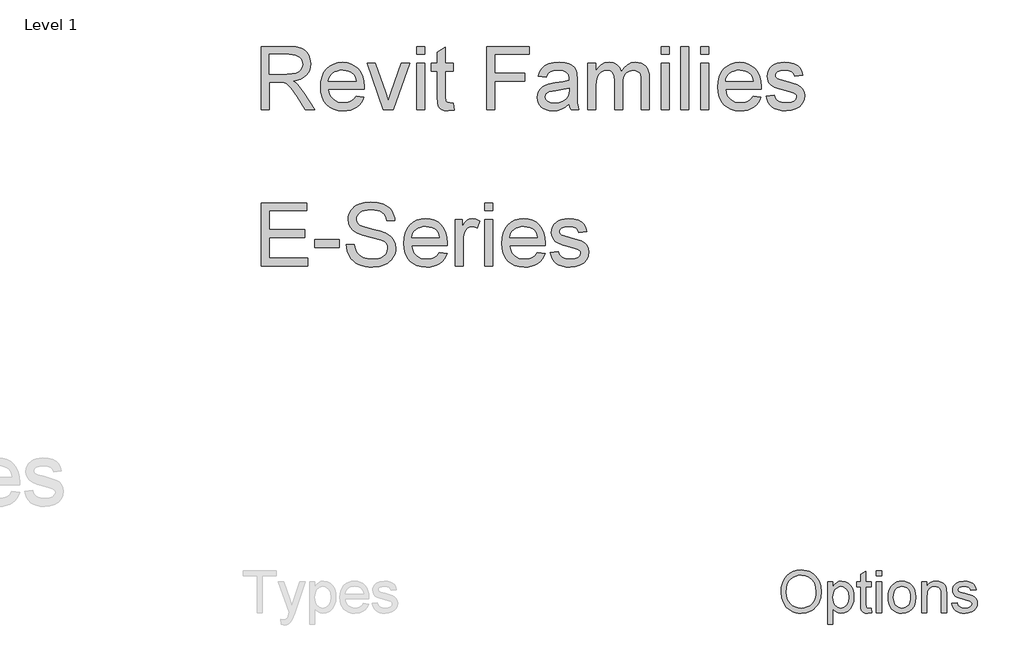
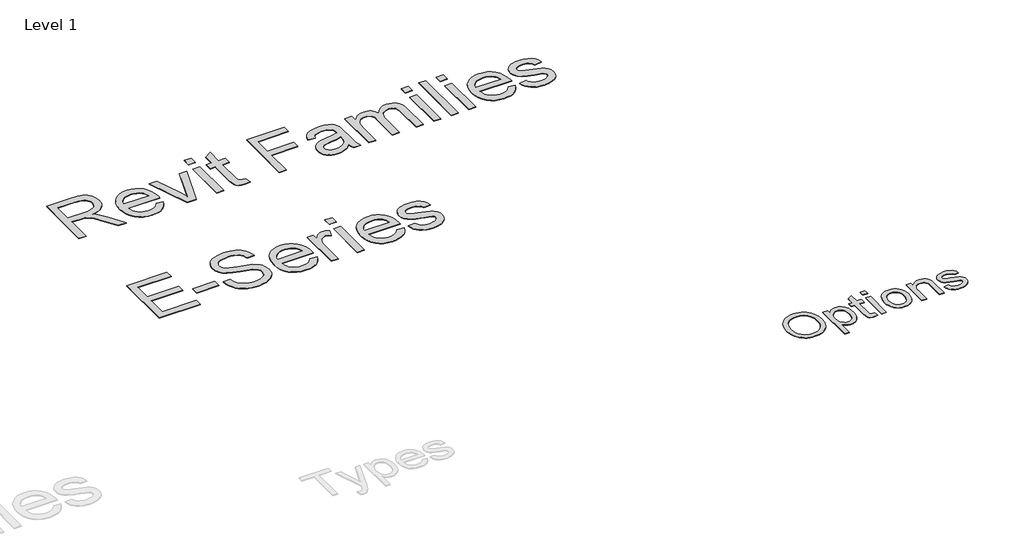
# One storey, part 6 of 6: 2 proxies.
"""IFC4 building model written with IfcOpenShell, lengths in millimetres."""

from ifc_helpers import new_model, si_unit, origin, origin_with_axes, place, context, project, spatial, polyline, outline, extrude, element, save

model = new_model("IFC4")

# Units and contexts
model_context = context("Model", 3, world=origin())
ifc_project = project(units=[si_unit("LENGTHUNIT", "METRE", prefix="MILLI")], contexts=[model_context])

# Site, building, storey
site = spatial("IfcSite", under=ifc_project)
building = spatial("IfcBuilding", under=site)
storey = spatial("IfcBuildingStorey", under=building, Name="Level 1", Elevation=0.0)

# Proxies
placement = place(None, origin())
element("IfcBuildingElementProxy", 1, Name="400mm Arial", ObjectType="400mm Arial", at=placement, inside=storey, context=model_context, shape_type="SweptSolid", body=[
    extrude(outline(polyline([(-6462.261333, 17542.0194987), (-6458.9974836, 17587.9704339), (-6449.2059353, 17628.6489968), (-6432.8866881, 17664.0551876), (-6410.0397421, 17694.1890063), (-6382.0340011, 17718.2494348), (-6350.238369, 17735.4354552), (-6314.6528458, 17745.7470674), (-6275.2774315, 17749.1842715), (-6248.9215484, 17747.57028), (-6223.892725, 17742.7283055), (-6200.1909613, 17734.6583482), (-6177.8162572, 17723.3604078), (-6157.3962762, 17709.1752161), (-6139.5586815, 17692.4435044), (-6124.3034732, 17673.1652729), (-6111.6306512, 17651.3405215), (-6101.671726, 17627.4654031), (-6094.558208, 17602.0360707), (-6088.8673936, 17546.5147639), (-6094.8570953, 17490.2522165), (-6102.3442224, 17464.4701971), (-6112.8262004, 17440.2543472), (-6126.0549528, 17418.2442857), (-6141.7824031, 17399.0796313), (-6160.0085513, 17382.7603841), (-6180.7333974, 17369.2865442), (-6226.4153339, 17351.2098396), (-6275.5643633, 17345.1842715), (-6302.3805328, 17346.8490738), (-6327.7381322, 17351.8434807), (-6351.6371616, 17360.1674923), (-6374.0776209, 17371.8211086), (-6394.473691, 17386.3530096), (-6412.2395527, 17403.3118756), (-6427.3752061, 17422.6977066), (-6439.8806512, 17444.5105025), (-6456.6661625, 17491.91403), (-6462.261333, 17542.0194987)]), holes=[polyline([(-6413.291636, 17541.541279), (-6410.843749, 17509.0761393), (-6403.5000877, 17480.2574249), (-6391.2606524, 17455.0851356), (-6374.1254429, 17433.5592715), (-6353.2959862, 17416.3194514), (-6329.9738093, 17404.0052942), (-6304.1589123, 17396.6167999), (-6275.8512951, 17394.1539684), (-6247.0594805, 17396.6407108), (-6220.9397184, 17404.1009381), (-6197.4920089, 17416.5346502), (-6176.7163519, 17433.9418472), (-6159.7066751, 17455.92202), (-6147.5569059, 17482.0746597), (-6140.2670444, 17512.3997662), (-6137.8370906, 17546.8973396), (-6141.9976019, 17590.2479552), (-6154.479136, 17627.7164684), (-6174.9588946, 17658.3583955), (-6203.1140792, 17681.2292525), (-6237.0796332, 17695.468244), (-6274.9904997, 17700.2145745), (-6302.3147776, 17697.9280866), (-6327.6663993, 17691.0686228), (-6351.0453647, 17679.6361831), (-6372.4516739, 17663.6307677), (-6390.3191573, 17642.2812471), (-6403.0816455, 17614.8164921), (-6410.7391384, 17581.2365027), (-6413.291636, 17541.541279)])]), origin_with_axes(), (0.0, 0.0, 1.0), 5.0),
    extrude(outline(polyline([(-6027.6552724, 17241.1236654), (-6027.6552724, 17639.0024533), (-5978.6855754, 17639.0024533), (-5978.6855754, 17590.9891957), (-5962.7130375, 17614.6730262), (-5944.8276209, 17631.590048), (-5923.9772421, 17641.740261), (-5899.1098179, 17645.1236654), (-5865.9931038, 17640.3892904), (-5837.0369012, 17626.1861654), (-5813.4606701, 17603.3750858), (-5796.4838709, 17572.8168472), (-5786.2260584, 17536.7351711), (-5782.8067875, 17497.353779), (-5786.6684116, 17455.4736891), (-5798.2532838, 17418.0171313), (-5817.1907838, 17386.885029), (-5843.1102913, 17363.9783055), (-5873.2979097, 17349.88278), (-5905.0397421, 17345.1842715), (-5927.5519343, 17348.328566), (-5947.6491171, 17357.7614495), (-5964.8530707, 17372.000441), (-5978.6855754, 17389.5630593), (-5978.6855754, 17241.1236654), (-6027.6552724, 17241.1236654)]), holes=[polyline([(-5978.6855754, 17492.8585139), (-5973.3892923, 17448.9579457), (-5966.7689384, 17431.9572355), (-5957.5004429, 17418.2562411), (-5934.0557222, 17400.1795366), (-5920.6386708, 17395.6603605), (-5906.0918254, 17394.1539684), (-5891.3357589, 17395.7141602), (-5877.6736199, 17400.3947355), (-5853.6311247, 17419.1170366), (-5844.0697196, 17433.3141839), (-5837.2401446, 17450.9425574), (-5831.7764845, 17496.4929836), (-5837.1086341, 17540.1544419), (-5843.7738212, 17557.2866625), (-5853.105083, 17571.2865442), (-5876.5139372, 17589.9371124), (-5889.778556, 17594.5997544), (-5904.0833027, 17596.1539684), (-5918.3432163, 17594.5011216), (-5931.7602677, 17589.5425811), (-5956.0657838, 17569.7084192), (-5965.9619426, 17554.9882191), (-5973.0306275, 17537.2731682), (-5977.2718384, 17516.5632665), (-5978.6855754, 17492.8585139)])]), origin_with_axes(), (0.0, 0.0, 1.0), 5.0),
    extrude(outline(polyline([(-5623.6552724, 17392.1454457), (-5617.5340603, 17349.8708245), (-5654.1656891, 17345.1842715), (-5677.6701872, 17347.2167052), (-5695.1969391, 17353.3140063), (-5707.5828292, 17362.7110233), (-5715.6647421, 17374.6426048), (-5720.1121853, 17395.1343188), (-5721.5946663, 17430.2117336), (-5721.5946663, 17590.0327563), (-5758.3219391, 17590.0327563), (-5758.3219391, 17639.0024533), (-5721.5946663, 17639.0024533), (-5721.5946663, 17708.918173), (-5672.6249694, 17737.7069987), (-5672.6249694, 17639.0024533), (-5623.6552724, 17639.0024533), (-5623.6552724, 17590.0327563), (-5672.6249694, 17590.0327563), (-5672.6249694, 17431.6463927), (-5670.042583, 17406.3963927), (-5661.6737383, 17397.4536843), (-5644.9838709, 17394.1539684), (-5623.6552724, 17392.1454457)])), origin_with_axes(), (0.0, 0.0, 1.0), 5.0),
    extrude(outline(polyline([(-5574.6855754, 17351.3054836), (-5574.6855754, 17639.0024533), (-5525.7158785, 17639.0024533), (-5525.7158785, 17351.3054836), (-5574.6855754, 17351.3054836)])), origin_with_axes(), (0.0, 0.0, 1.0), 5.0),
    extrude(outline(polyline([(-5574.6855754, 17694.0933624), (-5574.6855754, 17743.0630593), (-5525.7158785, 17743.0630593), (-5525.7158785, 17694.0933624), (-5574.6855754, 17694.0933624)])), origin_with_axes(), (0.0, 0.0, 1.0), 5.0),
    extrude(outline(polyline([(-5464.5037572, 17495.1539684), (-5461.8556157, 17532.4132606), (-5453.911191, 17564.5197355), (-5440.6704831, 17591.4733931), (-5422.1334921, 17613.2742336), (-5403.4709684, 17627.20836), (-5382.871655, 17637.1613074), (-5360.3355518, 17643.1330759), (-5335.8626588, 17645.1236654), (-5308.8462348, 17642.6996893), (-5284.4181749, 17635.427761), (-5262.5784791, 17623.3078806), (-5243.3271474, 17606.340048), (-5227.6146415, 17585.0981268), (-5216.391423, 17560.1559807), (-5209.6574919, 17531.5136098), (-5207.4128482, 17499.1710139), (-5211.3820716, 17449.6991862), (-5223.2897421, 17412.0393851), (-5242.7891502, 17383.8363785), (-5269.5335868, 17362.7349343), (-5301.2993302, 17349.5719372), (-5335.8626588, 17345.1842715), (-5363.273614, 17347.5992809), (-5387.9288283, 17354.8443093), (-5409.8283015, 17366.9193567), (-5428.9720338, 17383.824423), (-5444.5171628, 17405.2725764), (-5455.6208264, 17430.9768851), (-5462.2830245, 17460.9373491), (-5464.5037572, 17495.1539684)]), holes=[polyline([(-5415.5340603, 17495.2496124), (-5414.1173344, 17471.4970378), (-5409.8671569, 17450.9306019), (-5402.7835276, 17433.5503048), (-5392.8664466, 17419.3561465), (-5380.8033548, 17408.3301936), (-5367.2816929, 17400.4545129), (-5352.3014608, 17395.7291045), (-5335.8626588, 17394.1539684), (-5319.5075451, 17395.7380712), (-5304.5870906, 17400.4903794), (-5291.1012951, 17408.4108931), (-5279.0501588, 17419.4996124), (-5269.1330778, 17433.8342478), (-5262.0494485, 17451.4925101), (-5257.799271, 17472.4743993), (-5256.3825451, 17496.7799154), (-5257.8082376, 17519.7792939), (-5262.085315, 17539.8077326), (-5269.2137774, 17556.8652314), (-5279.1936247, 17570.9517904), (-5291.2895941, 17581.9777433), (-5304.766423, 17589.8534239), (-5319.6241112, 17594.5788323), (-5335.8626588, 17596.1539684), (-5352.3014608, 17594.58481), (-5367.2816929, 17589.8773349), (-5380.8033548, 17582.031543), (-5392.8664466, 17571.0474343), (-5402.7835276, 17556.8951202), (-5409.8671569, 17539.5447118), (-5414.1173344, 17518.9962092), (-5415.5340603, 17495.2496124)])]), origin_with_axes(), (0.0, 0.0, 1.0), 5.0),
    extrude(outline(polyline([(-5152.3219391, 17351.3054836), (-5152.3219391, 17639.0024533), (-5103.3522421, 17639.0024533), (-5103.3522421, 17598.8319987), (-5086.3395764, 17619.0846029), (-5065.9076398, 17633.5507487), (-5042.0564324, 17642.2304362), (-5014.7859542, 17645.1236654), (-4990.647815, 17642.7923444), (-4968.5421095, 17635.7983813), (-4950.1067402, 17625.0145271), (-4936.9796095, 17611.3135328), (-4928.0727677, 17594.7312648), (-4922.2982648, 17575.3035896), (-4919.7158785, 17527.9598396), (-4919.7158785, 17351.3054836), (-4968.6855754, 17351.3054836), (-4968.6855754, 17521.3604078), (-4970.0963235, 17546.6821408), (-4974.3285679, 17564.6871124), (-4982.1355044, 17577.5870887), (-4994.2703292, 17587.5938358), (-5009.8244249, 17594.0139353), (-5027.8891739, 17596.1539684), (-5056.5704002, 17591.3478605), (-5081.0193822, 17576.9295366), (-5090.7900084, 17565.1593543), (-5097.7690271, 17549.0732393), (-5101.9564384, 17528.6711914), (-5103.3522421, 17503.9532108), (-5103.3522421, 17351.3054836), (-5152.3219391, 17351.3054836)])), origin_with_axes(), (0.0, 0.0, 1.0), 5.0),
    extrude(outline(polyline([(-4870.7461815, 17437.0024533), (-4821.7764845, 17443.1236654), (-4814.0532364, 17422.1776427), (-4799.1088709, 17406.7789684), (-4776.847744, 17397.3102184), (-4747.1742118, 17394.1539684), (-4717.8593444, 17397.0471976), (-4697.2480754, 17405.7268851), (-4685.0534732, 17418.3040631), (-4680.9886057, 17432.8897639), (-4685.0773841, 17445.371298), (-4697.3437194, 17454.8878699), (-4747.7480754, 17468.8518851), (-4821.4895527, 17492.8106919), (-4840.1520764, 17504.8498728), (-4853.6737383, 17520.7865442), (-4861.8871616, 17539.6044893), (-4864.6249694, 17560.2874911), (-4862.4251588, 17579.2608576), (-4855.8257269, 17596.775654), (-4845.4244485, 17612.1384618), (-4831.8190982, 17624.6558624), (-4800.6869959, 17639.1459192), (-4758.5558406, 17645.1236654), (-4726.6824978, 17642.7206114), (-4698.9696663, 17635.5114495), (-4676.6846285, 17624.2015536), (-4661.0946663, 17609.496298), (-4650.7651209, 17590.3077326), (-4644.261333, 17565.5479078), (-4693.23103, 17559.4266957), (-4699.4120196, 17574.8373254), (-4711.6424883, 17586.4461086), (-4730.0419911, 17593.7270035), (-4754.730083, 17596.1539684), (-4782.8494012, 17593.8346029), (-4801.5956133, 17586.8765063), (-4812.1403576, 17576.8338927), (-4815.6552724, 17565.260976), (-4809.8209921, 17551.010029), (-4791.5529997, 17540.2022639), (-4749.3740224, 17529.7770745), (-4677.4976019, 17506.7268851), (-4658.51228, 17495.7039211), (-4644.1178671, 17480.6160896), (-4635.0436483, 17461.4155688), (-4632.0189088, 17438.0545366), (-4635.56969, 17413.9044419), (-4646.2220338, 17391.1890063), (-4663.5694533, 17371.6895982), (-4687.2054618, 17357.1875858), (-4715.7551777, 17348.1851), (-4747.8437194, 17345.1842715), (-4774.1996024, 17346.630886), (-4797.2199031, 17350.9707298), (-4816.9046214, 17358.2038027), (-4833.2537572, 17368.3301048), (-4846.6080423, 17381.3018141), (-4857.308208, 17397.0711086), (-4865.3542544, 17415.6379883), (-4870.7461815, 17437.0024533)])), origin_with_axes(), (0.0, 0.0, 1.0), 5.0),
])
element("IfcBuildingElementProxy", 2, Name="600mm Arial", ObjectType="600mm Arial", at=placement, inside=storey, context=model_context, shape_type="SweptSolid", body=[
    extrude(outline(polyline([(-11309.2935955, 22041.6162982), (-11309.2935955, 22632.385529), (-11054.7262878, 22632.385529), (-10986.3068167, 22628.401154), (-10936.5291724, 22616.448029), (-10917.3194369, 22606.9468271), (-10900.1469609, 22594.3807213), (-10885.0117446, 22578.7497117), (-10871.9137878, 22560.0537982), (-10861.3443768, 22539.2980891), (-10853.7947974, 22517.4876924), (-10847.755134, 22470.7028367), (-10850.2566364, 22440.3602886), (-10857.7611436, 22412.5057213), (-10870.2686556, 22387.1391347), (-10887.7791724, 22364.260529), (-10910.5180547, 22344.6000722), (-10938.7106628, 22328.8879328), (-10972.356997, 22317.1241107), (-11011.4570571, 22309.3086059), (-10987.1181148, 22293.4071636), (-10969.4859032, 22277.7220674), (-10909.630134, 22201.7124521), (-10811.1205186, 22041.6162982), (-10896.9378263, 22041.6162982), (-10973.8128263, 22164.0682213), (-11029.3416724, 22245.1259136), (-11049.9847013, 22268.7617309), (-11068.3560955, 22283.4191828), (-11103.4762878, 22297.4816828), (-11146.3128263, 22300.0778367), (-11235.4474417, 22300.0778367), (-11235.4474417, 22041.6162982), (-11309.2935955, 22041.6162982)]), holes=[polyline([(-11235.4474417, 22373.9239905), (-11070.1589801, 22373.9239905), (-11022.6890282, 22376.5381732), (-10985.8560955, 22384.3807213), (-10958.1277301, 22397.9744713), (-10937.9714801, 22417.8422597), (-10925.6938359, 22441.8747117), (-10921.6012878, 22467.9624521), (-10923.5529104, 22486.8476684), (-10929.4077782, 22503.9840867), (-10939.1658912, 22519.3717069), (-10952.8272494, 22533.010529), (-10970.7073575, 22544.1793992), (-10993.1217205, 22552.1571636), (-11020.0703383, 22556.9438222), (-11051.5532109, 22558.5393751), (-11235.4474417, 22558.5393751), (-11235.4474417, 22373.9239905)])]), origin_with_axes(), (0.0, 0.0, 1.0), 5.0),
    extrude(outline(polyline([(-10424.005134, 22170.8470674), (-10351.6012878, 22161.6162982), (-10362.7025498, 22132.6168992), (-10377.6890282, 22107.0610097), (-10396.5607229, 22084.9486299), (-10419.317634, 22066.2797597), (-10445.7253864, 22051.4510338), (-10475.5496051, 22040.8590867), (-10508.7902902, 22034.5039184), (-10545.4474417, 22032.385529), (-10591.2677542, 22036.0408775), (-10632.0940763, 22047.0069232), (-10667.926408, 22065.283666), (-10698.7647494, 22090.8711059), (-10723.5634273, 22123.0571035), (-10741.2767686, 22161.1295194), (-10751.9047734, 22205.0883535), (-10755.4474417, 22254.9336059), (-10751.8687157, 22306.4690626), (-10741.1325378, 22351.8927405), (-10723.238908, 22391.2046396), (-10698.1878263, 22424.4047597), (-10667.4306148, 22450.7809617), (-10632.4185955, 22469.6211059), (-10593.1517686, 22480.9251924), (-10549.630134, 22484.6932213), (-10507.5102422, 22480.9342069), (-10469.4197974, 22469.6571636), (-10435.3587998, 22450.8620915), (-10405.3272494, 22424.5489905), (-10380.8125258, 22391.4209857), (-10363.302009, 22352.1812021), (-10352.7956989, 22306.8296396), (-10349.2935955, 22255.3662982), (-10349.7262878, 22235.4624521), (-10681.6012878, 22235.4624521), (-10677.3239441, 22205.994303), (-10668.8188359, 22180.1860097), (-10656.0859633, 22158.0375722), (-10639.1253263, 22139.5489905), (-10618.8744248, 22124.9726684), (-10596.270759, 22114.5610097), (-10571.3143287, 22108.3140146), (-10544.005134, 22106.2316828), (-10504.7022494, 22110.0898559), (-10471.6012878, 22121.6643751), (-10444.7022494, 22141.6763944), (-10424.005134, 22170.8470674)]), holes=[polyline([(-10681.6012878, 22309.3086059), (-10423.1397494, 22309.3086059), (-10433.1277301, 22348.323029), (-10441.7184753, 22363.6655771), (-10452.7070571, 22376.2316828), (-10472.8452782, 22391.3759136), (-10495.7599417, 22402.1932213), (-10521.4510474, 22408.6836059), (-10549.9185955, 22410.8470674), (-10575.8846412, 22409.1208054), (-10599.6962398, 22403.9420194), (-10621.3533912, 22395.3107093), (-10640.8560955, 22383.2268751), (-10657.2217806, 22368.2494112), (-10669.4678744, 22350.9372117), (-10677.5943768, 22331.2902766), (-10681.6012878, 22309.3086059)])]), origin_with_axes(), (0.0, 0.0, 1.0), 5.0),
    extrude(outline(polyline([(-10169.005134, 22041.6162982), (-10321.6012878, 22475.4624521), (-10243.4282109, 22475.4624521), (-10150.9762878, 22215.5586059), (-10123.1397494, 22128.1547597), (-10095.880134, 22210.6547597), (-10002.8512878, 22475.4624521), (-9924.6782109, 22475.4624521), (-10075.3993648, 22041.6162982), (-10169.005134, 22041.6162982)])), origin_with_axes(), (0.0, 0.0, 1.0), 5.0),
    extrude(outline(polyline([(-9860.0628263, 22041.6162982), (-9860.0628263, 22475.4624521), (-9786.2166724, 22475.4624521), (-9786.2166724, 22041.6162982), (-9860.0628263, 22041.6162982)])), origin_with_axes(), (0.0, 0.0, 1.0), 5.0),
    extrude(outline(polyline([(-9860.0628263, 22558.5393751), (-9860.0628263, 22632.385529), (-9786.2166724, 22632.385529), (-9786.2166724, 22558.5393751), (-9860.0628263, 22558.5393751)])), origin_with_axes(), (0.0, 0.0, 1.0), 5.0),
    extrude(outline(polyline([(-9518.5243648, 22103.2028367), (-9509.2935955, 22039.4528367), (-9564.5339801, 22032.385529), (-9599.9786917, 22035.4504328), (-9626.4089801, 22044.6451444), (-9645.0868648, 22058.8158174), (-9657.2743648, 22076.8086059), (-9663.9810955, 22107.7100482), (-9666.2166724, 22160.6066828), (-9666.2166724, 22401.6162982), (-9721.6012878, 22401.6162982), (-9721.6012878, 22475.4624521), (-9666.2166724, 22475.4624521), (-9666.2166724, 22580.8951444), (-9592.3705186, 22624.3086059), (-9592.3705186, 22475.4624521), (-9518.5243648, 22475.4624521), (-9518.5243648, 22401.6162982), (-9592.3705186, 22401.6162982), (-9592.3705186, 22162.7701444), (-9588.4762878, 22124.6932213), (-9575.8560955, 22111.2076444), (-9565.2010474, 22107.4756732), (-9550.6878263, 22106.2316828), (-9518.5243648, 22103.2028367)])), origin_with_axes(), (0.0, 0.0, 1.0), 5.0),
    extrude(outline(polyline([(-9204.6782109, 22041.6162982), (-9204.6782109, 22632.385529), (-8807.755134, 22632.385529), (-8807.755134, 22558.5393751), (-9130.8320571, 22558.5393751), (-9130.8320571, 22383.1547597), (-8853.9089801, 22383.1547597), (-8853.9089801, 22309.3086059), (-9130.8320571, 22309.3086059), (-9130.8320571, 22041.6162982), (-9204.6782109, 22041.6162982)])), origin_with_axes(), (0.0, 0.0, 1.0), 5.0),
    extrude(outline(polyline([(-8438.5243648, 22097.0009136), (-8473.8068167, 22066.7485097), (-8510.1349417, 22046.9528367), (-8548.3380667, 22036.0273559), (-8589.2455186, 22032.385529), (-8622.1256268, 22034.5760338), (-8650.958259, 22041.1475482), (-8675.7434152, 22052.1000722), (-8696.4810955, 22067.4336059), (-8712.855795, 22086.1745915), (-8724.552009, 22107.3494713), (-8731.5697373, 22130.9582453), (-8733.9089801, 22157.0009136), (-8730.3753263, 22187.6138944), (-8719.7743648, 22215.4143751), (-8703.4222013, 22239.2124521), (-8682.6349417, 22257.8182213), (-8658.2058551, 22271.8807213), (-8630.9282109, 22282.0489905), (-8567.0339801, 22293.1547597), (-8491.5291724, 22304.8374521), (-8438.9570571, 22318.5393751), (-8438.5243648, 22334.9816828), (-8443.6084994, 22367.9384136), (-8449.9636676, 22380.1439424), (-8458.8609032, 22389.5009136), (-8474.239509, 22398.8398559), (-8492.9714801, 22405.510529), (-8540.4955186, 22410.8470674), (-8584.4859032, 22407.2953847), (-8615.2070571, 22396.6403367), (-8636.1565763, 22376.9348078), (-8650.8320571, 22346.2316828), (-8724.6782109, 22355.4624521), (-8711.8597013, 22395.8470674), (-8692.7310955, 22427.5778367), (-8665.5075378, 22451.8446636), (-8628.4041724, 22469.8374521), (-8583.0255667, 22480.979279), (-8530.9762878, 22484.6932213), (-8481.0544128, 22481.4119713), (-8441.4810955, 22471.5682213), (-8411.6433551, 22456.7665386), (-8390.9282109, 22438.6114905), (-8377.1902301, 22416.1655771), (-8368.2839801, 22388.4912982), (-8364.6782109, 22323.8759136), (-8364.6782109, 22232.0009136), (-8360.9282109, 22103.7076444), (-8355.3753263, 22071.994904), (-8346.2166724, 22041.6162982), (-8420.0628263, 22041.6162982), (-8431.8897494, 22067.2893751), (-8438.5243648, 22097.0009136)]), holes=[polyline([(-8438.5243648, 22244.6932213), (-8488.1397494, 22232.3975482), (-8557.6589801, 22222.0489905), (-8621.192634, 22210.0778367), (-8637.7250859, 22201.8927405), (-8649.9666724, 22190.6066828), (-8657.5387878, 22177.0850482), (-8660.0628263, 22162.1932213), (-8654.5640282, 22140.2340867), (-8638.067634, 22122.2412982), (-8610.9342205, 22110.2340867), (-8573.5243648, 22106.2316828), (-8533.8609032, 22110.6487501), (-8498.8128263, 22123.8999521), (-8470.3993648, 22143.4251924), (-8450.6397494, 22166.6643751), (-8441.8777301, 22190.6066828), (-8438.9570571, 22223.7797597), (-8438.5243648, 22244.6932213)])]), origin_with_axes(), (0.0, 0.0, 1.0), 5.0),
    extrude(outline(polyline([(-8263.1397494, 22041.6162982), (-8263.1397494, 22475.4624521), (-8189.2935955, 22475.4624521), (-8189.2935955, 22404.0682213), (-8167.0820571, 22436.8626924), (-8138.5243648, 22462.5537982), (-8104.5940763, 22479.1583655), (-8066.2647494, 22484.6932213), (-8025.1950378, 22479.0501924), (-8007.7160715, 22471.9964064), (-7992.2743648, 22462.1211059), (-7967.6830186, 22435.0237501), (-7951.6012878, 22398.8759136), (-7924.6842205, 22436.4209857), (-7893.9810955, 22463.2388944), (-7859.4919128, 22479.3296396), (-7821.2166724, 22484.6932213), (-7791.653872, 22482.4621516), (-7765.7058551, 22475.7689424), (-7743.372622, 22464.6135939), (-7724.6541724, 22448.9961059), (-7709.856997, 22428.73619), (-7699.2875859, 22403.6535578), (-7692.9459393, 22373.7482093), (-7690.8320571, 22339.0201444), (-7690.8320571, 22041.6162982), (-7764.6782109, 22041.6162982), (-7764.6782109, 22307.2893751), (-7766.3909513, 22344.1223078), (-7771.5291724, 22368.948029), (-7781.1565763, 22385.9492309), (-7796.3368648, 22399.3086059), (-7815.8621051, 22407.9624521), (-7838.5243648, 22410.8470674), (-7859.4513479, 22408.9991107), (-7878.5303744, 22403.4552405), (-7895.7614441, 22394.2154569), (-7911.1445571, 22381.2797597), (-7923.7962998, 22364.2695434), (-7932.833259, 22342.8062021), (-7938.2554345, 22316.8897357), (-7940.0628263, 22286.5201444), (-7940.0628263, 22041.6162982), (-8013.9089801, 22041.6162982), (-8013.9089801, 22315.510529), (-8018.1818167, 22357.2653367), (-8031.0003263, 22387.0489905), (-8040.9116845, 22397.4606492), (-8053.5544128, 22404.8975482), (-8068.9285114, 22409.3596876), (-8087.0339801, 22410.8470674), (-8115.4834994, 22406.8807213), (-8141.6974417, 22394.9816828), (-8163.3320571, 22375.4384136), (-8178.0435955, 22348.5393751), (-8186.4810955, 22311.2196636), (-8189.2935955, 22260.4143751), (-8189.2935955, 22041.6162982), (-8263.1397494, 22041.6162982)])), origin_with_axes(), (0.0, 0.0, 1.0), 5.0),
    extrude(outline(polyline([(-7580.0628263, 22041.6162982), (-7580.0628263, 22475.4624521), (-7506.2166724, 22475.4624521), (-7506.2166724, 22041.6162982), (-7580.0628263, 22041.6162982)])), origin_with_axes(), (0.0, 0.0, 1.0), 5.0),
    extrude(outline(polyline([(-7580.0628263, 22558.5393751), (-7580.0628263, 22632.385529), (-7506.2166724, 22632.385529), (-7506.2166724, 22558.5393751), (-7580.0628263, 22558.5393751)])), origin_with_axes(), (0.0, 0.0, 1.0), 5.0),
    extrude(outline(polyline([(-7395.4474417, 22041.6162982), (-7395.4474417, 22632.385529), (-7321.6012878, 22632.385529), (-7321.6012878, 22041.6162982), (-7395.4474417, 22041.6162982)])), origin_with_axes(), (0.0, 0.0, 1.0), 5.0),
    extrude(outline(polyline([(-7210.8320571, 22041.6162982), (-7210.8320571, 22475.4624521), (-7136.9859032, 22475.4624521), (-7136.9859032, 22041.6162982), (-7210.8320571, 22041.6162982)])), origin_with_axes(), (0.0, 0.0, 1.0), 5.0),
    extrude(outline(polyline([(-7210.8320571, 22558.5393751), (-7210.8320571, 22632.385529), (-7136.9859032, 22632.385529), (-7136.9859032, 22558.5393751), (-7210.8320571, 22558.5393751)])), origin_with_axes(), (0.0, 0.0, 1.0), 5.0),
    extrude(outline(polyline([(-6722.4666724, 22170.8470674), (-6650.0628263, 22161.6162982), (-6661.1640883, 22132.6168992), (-6676.1505667, 22107.0610097), (-6695.0222614, 22084.9486299), (-6717.7791724, 22066.2797597), (-6744.1869248, 22051.4510338), (-6774.0111436, 22040.8590867), (-6807.2518287, 22034.5039184), (-6843.9089801, 22032.385529), (-6889.7292926, 22036.0408775), (-6930.5556148, 22047.0069232), (-6966.3879465, 22065.283666), (-6997.2262878, 22090.8711059), (-7022.0249657, 22123.0571035), (-7039.7383071, 22161.1295194), (-7050.3663119, 22205.0883535), (-7053.9089801, 22254.9336059), (-7050.3302542, 22306.4690626), (-7039.5940763, 22351.8927405), (-7021.7004465, 22391.2046396), (-6996.6493648, 22424.4047597), (-6965.8921532, 22450.7809617), (-6930.880134, 22469.6211059), (-6891.6133071, 22480.9251924), (-6848.0916724, 22484.6932213), (-6805.9717806, 22480.9342069), (-6767.8813359, 22469.6571636), (-6733.8203383, 22450.8620915), (-6703.7887878, 22424.5489905), (-6679.2740643, 22391.4209857), (-6661.7635474, 22352.1812021), (-6651.2572373, 22306.8296396), (-6647.755134, 22255.3662982), (-6648.1878263, 22235.4624521), (-6980.0628263, 22235.4624521), (-6975.7854825, 22205.994303), (-6967.2803744, 22180.1860097), (-6954.5475018, 22158.0375722), (-6937.5868648, 22139.5489905), (-6917.3359633, 22124.9726684), (-6894.7322974, 22114.5610097), (-6869.7758672, 22108.3140146), (-6842.4666724, 22106.2316828), (-6803.1637878, 22110.0898559), (-6770.0628263, 22121.6643751), (-6743.1637878, 22141.6763944), (-6722.4666724, 22170.8470674)]), holes=[polyline([(-6980.0628263, 22309.3086059), (-6721.6012878, 22309.3086059), (-6731.5892686, 22348.323029), (-6740.1800138, 22363.6655771), (-6751.1685955, 22376.2316828), (-6771.3068167, 22391.3759136), (-6794.2214801, 22402.1932213), (-6819.9125859, 22408.6836059), (-6848.380134, 22410.8470674), (-6874.3461797, 22409.1208054), (-6898.1577782, 22403.9420194), (-6919.8149297, 22395.3107093), (-6939.317634, 22383.2268751), (-6955.6833191, 22368.2494112), (-6967.9294128, 22350.9372117), (-6976.0559152, 22331.2902766), (-6980.0628263, 22309.3086059)])]), origin_with_axes(), (0.0, 0.0, 1.0), 5.0),
    extrude(outline(polyline([(-6601.6012878, 22170.8470674), (-6527.755134, 22180.0778367), (-6523.2929946, 22163.2388944), (-6516.1084994, 22148.4912982), (-6506.2016484, 22135.8350482), (-6493.5724417, 22125.2701444), (-6478.1848215, 22116.9408174), (-6460.0027301, 22110.9912982), (-6415.255134, 22106.2316828), (-6371.0484032, 22110.5946636), (-6353.8669128, 22116.0483896), (-6339.9666724, 22123.6836059), (-6321.5772494, 22142.6499521), (-6315.4474417, 22164.6451444), (-6316.988908, 22174.6150963), (-6321.6133071, 22183.4672597), (-6340.1109032, 22197.8182213), (-6367.7671532, 22207.1932213), (-6416.1205186, 22218.8759136), (-6483.5123455, 22238.3650963), (-6527.3224417, 22255.0057213), (-6555.4654705, 22273.1607694), (-6575.8560955, 22297.1932213), (-6588.2419128, 22325.5706251), (-6592.3705186, 22356.760529), (-6589.0532109, 22385.3723078), (-6579.1012878, 22411.7845674), (-6563.4161917, 22434.9516347), (-6542.8993648, 22453.8278367), (-6522.5087398, 22465.7088463), (-6495.9522494, 22475.6787982), (-6465.2491244, 22482.4396155), (-6432.4185955, 22484.6932213), (-6384.3536917, 22481.0694232), (-6342.5628263, 22470.198029), (-6308.9570571, 22453.1427405), (-6285.4474417, 22430.9672597), (-6269.8705186, 22402.0309617), (-6260.0628263, 22364.6932213), (-6333.9089801, 22355.4624521), (-6343.2298936, 22378.7016347), (-6361.6734032, 22396.2076444), (-6389.4197974, 22407.1872117), (-6426.6493648, 22410.8470674), (-6469.0532109, 22407.3494713), (-6497.3224417, 22396.8566828), (-6513.223884, 22381.7124521), (-6518.5243648, 22364.260529), (-6516.3248455, 22352.9023559), (-6509.7262878, 22342.7701444), (-6498.4402301, 22333.7196636), (-6482.1782109, 22326.4720674), (-6418.5724417, 22310.7509136), (-6310.1830186, 22275.9912982), (-6281.5532109, 22259.3687021), (-6259.8464801, 22236.6162982), (-6246.1625859, 22207.6619713), (-6241.6012878, 22172.4336059), (-6246.9558551, 22136.0153367), (-6263.0195571, 22101.760529), (-6289.1794128, 22072.3554809), (-6324.8224417, 22050.4864905), (-6367.8753263, 22036.9107694), (-6416.2647494, 22032.385529), (-6456.0093407, 22034.5670194), (-6490.723884, 22041.1114905), (-6520.4083792, 22052.0189424), (-6545.0628263, 22067.2893751), (-6565.2010474, 22086.8506732), (-6581.3368648, 22110.6307213), (-6593.4702782, 22138.6295194), (-6601.6012878, 22170.8470674)])), origin_with_axes(), (0.0, 0.0, 1.0), 5.0),
    extrude(outline(polyline([(-11309.2935955, 20583.1547597), (-11309.2935955, 21173.9239905), (-10884.6782109, 21173.9239905), (-10884.6782109, 21100.0778367), (-11235.4474417, 21100.0778367), (-11235.4474417, 20924.6932213), (-10903.1397494, 20924.6932213), (-10903.1397494, 20850.8470674), (-11235.4474417, 20850.8470674), (-11235.4474417, 20657.0009136), (-10875.4474417, 20657.0009136), (-10875.4474417, 20583.1547597), (-11309.2935955, 20583.1547597)])), origin_with_axes(), (0.0, 0.0, 1.0), 5.0),
    extrude(outline(polyline([(-10810.8320571, 20758.5393751), (-10810.8320571, 20832.385529), (-10580.0628263, 20832.385529), (-10580.0628263, 20758.5393751), (-10810.8320571, 20758.5393751)])), origin_with_axes(), (0.0, 0.0, 1.0), 5.0),
    extrude(outline(polyline([(-10515.4474417, 20786.2316828), (-10441.6012878, 20786.2316828), (-10433.1277301, 20745.2521155), (-10417.8032109, 20712.3134136), (-10393.8969609, 20686.1715867), (-10359.6782109, 20665.5826444), (-10317.8512878, 20652.2232694), (-10271.1205186, 20647.7701444), (-10229.9786917, 20651.1415386), (-10193.9570571, 20661.2557213), (-10164.7683551, 20677.2653367), (-10144.1253263, 20698.323029), (-10131.8476821, 20722.4997117), (-10127.755134, 20747.8662982), (-10130.8200378, 20772.5838463), (-10140.0147494, 20793.948029), (-10158.692634, 20812.1751924), (-10190.2070571, 20827.4816828), (-10297.7310955, 20855.6787982), (-10368.3140282, 20874.338654), (-10413.4762878, 20892.0970674), (-10450.2371051, 20916.9408174), (-10476.2887878, 20947.0489905), (-10491.8116244, 20981.7725482), (-10496.9859032, 21020.4624521), (-10495.3858431, 21042.4531372), (-10490.5856628, 21063.713654), (-10482.5853623, 21084.2440025), (-10471.3849417, 21104.0441828), (-10457.1106027, 21122.307404), (-10439.8885474, 21138.2268751), (-10419.7187758, 21151.8025963), (-10396.6012878, 21163.0345674), (-10344.6421532, 21178.1247117), (-10287.130134, 21183.1547597), (-10224.8224417, 21177.8903367), (-10170.3032109, 21162.0970674), (-10146.4510474, 21150.3332453), (-10125.5195571, 21136.0994713), (-10107.5087398, 21119.3957453), (-10092.4185955, 21100.2220674), (-10080.3663119, 21079.1373319), (-10071.4690763, 21056.7004328), (-10065.7268888, 21032.9113703), (-10063.1397494, 21007.7701444), (-10136.9859032, 21007.7701444), (-10141.9258071, 21031.3338463), (-10150.5435955, 21051.8326444), (-10162.8392686, 21069.2665386), (-10178.8128263, 21083.635529), (-10198.7617446, 21094.8675001), (-10222.9834994, 21102.8903367), (-10251.4780907, 21107.7040386), (-10284.2455186, 21109.3086059), (-10318.0586196, 21107.7220674), (-10346.9498455, 21102.9624521), (-10370.9191965, 21095.0297597), (-10389.9666724, 21083.9239905), (-10404.4798936, 21070.5736299), (-10414.8464801, 21055.9071636), (-10421.0664321, 21039.9245915), (-10423.1397494, 21022.6259136), (-10417.2623455, 20994.2485097), (-10399.630134, 20971.4239905), (-10383.4402301, 20961.2737501), (-10357.9474417, 20951.0153367), (-10279.0532109, 20930.1739905), (-10197.6349417, 20910.3783174), (-10148.380134, 20893.1066828), (-10106.2827782, 20866.3158174), (-10090.0072373, 20850.5676203), (-10076.9137878, 20833.2509136), (-10066.8491845, 20814.4558415), (-10059.6601821, 20794.2725482), (-10053.9089801, 20749.7412982), (-10055.5631268, 20726.6418391), (-10060.5255667, 20704.2184617), (-10068.7962998, 20682.471166), (-10080.3753263, 20661.3999521), (-10095.0598215, 20641.8206251), (-10112.6469609, 20624.5489905), (-10133.1367446, 20609.5850482), (-10156.5291724, 20596.9287982), (-10182.1436556, 20586.8641948), (-10209.2996051, 20579.6751924), (-10268.2359032, 20573.9239905), (-10306.0108431, 20575.4744713), (-10340.5856628, 20580.1259136), (-10371.9603623, 20587.8783174), (-10400.1349417, 20598.7316828), (-10425.2806748, 20612.7040386), (-10447.5688359, 20629.8134136), (-10466.9994248, 20650.0598078), (-10483.5724417, 20673.4432213), (-10496.9228023, 20699.2064424), (-10506.6854224, 20726.5922597), (-10512.8603023, 20755.6006732), (-10515.4474417, 20786.2316828)])), origin_with_axes(), (0.0, 0.0, 1.0), 5.0),
    extrude(outline(polyline([(-9648.6205186, 20712.385529), (-9576.2166724, 20703.1547597), (-9587.3179345, 20674.1553607), (-9602.3044128, 20648.5994713), (-9621.1761075, 20626.4870915), (-9643.9330186, 20607.8182213), (-9670.340771, 20592.9894953), (-9700.1649898, 20582.3975482), (-9733.4056748, 20576.0423799), (-9770.0628263, 20573.9239905), (-9815.8831388, 20577.5793391), (-9856.7094609, 20588.5453847), (-9892.5417926, 20606.8221275), (-9923.380134, 20632.4095674), (-9948.1788119, 20664.595565), (-9965.8921532, 20702.6679809), (-9976.520158, 20746.626815), (-9980.0628263, 20796.4720674), (-9976.4841003, 20848.0075242), (-9965.7479224, 20893.4312021), (-9947.8542926, 20932.7431011), (-9922.8032109, 20965.9432213), (-9892.0459994, 20992.3194232), (-9857.0339801, 21011.1595674), (-9817.7671532, 21022.463654), (-9774.2455186, 21026.2316828), (-9732.1256268, 21022.4726684), (-9694.0351821, 21011.1956251), (-9659.9741845, 20992.400553), (-9629.942634, 20966.0874521), (-9605.4279104, 20932.9594472), (-9587.9173936, 20893.7196636), (-9577.4110835, 20848.3681011), (-9573.9089801, 20796.9047597), (-9574.3416724, 20777.0009136), (-9906.2166724, 20777.0009136), (-9901.9393287, 20747.5327646), (-9893.4342205, 20721.7244713), (-9880.7013479, 20699.5760338), (-9863.7407109, 20681.0874521), (-9843.4898095, 20666.5111299), (-9820.8861436, 20656.0994713), (-9795.9297133, 20649.8524761), (-9768.6205186, 20647.7701444), (-9729.317634, 20651.6283174), (-9696.2166724, 20663.2028367), (-9669.317634, 20683.2148559), (-9648.6205186, 20712.385529)]), holes=[polyline([(-9906.2166724, 20850.8470674), (-9647.755134, 20850.8470674), (-9657.7431148, 20889.8614905), (-9666.3338599, 20905.2040386), (-9677.3224417, 20917.7701444), (-9697.4606628, 20932.9143751), (-9720.3753263, 20943.7316828), (-9746.0664321, 20950.2220674), (-9774.5339801, 20952.385529), (-9800.5000258, 20950.659267), (-9824.3116244, 20945.4804809), (-9845.9687758, 20936.8491708), (-9865.4714801, 20924.7653367), (-9881.8371652, 20909.7878727), (-9894.083259, 20892.4756732), (-9902.2097614, 20872.8287381), (-9906.2166724, 20850.8470674)])]), origin_with_axes(), (0.0, 0.0, 1.0), 5.0),
    extrude(outline(polyline([(-9500.0628263, 20583.1547597), (-9500.0628263, 21017.0009136), (-9435.4474417, 21017.0009136), (-9435.4474417, 20952.8182213), (-9411.5772494, 20990.0297597), (-9389.5820571, 21011.9528367), (-9367.5147494, 21022.6619713), (-9343.4282109, 21026.2316828), (-9306.6493648, 21020.5345674), (-9269.2935955, 21003.4432213), (-9293.9570571, 20937.2412982), (-9319.9185955, 20948.5994713), (-9345.880134, 20952.385529), (-9367.9294128, 20948.7437021), (-9387.6349417, 20937.8182213), (-9403.5544128, 20920.4384136), (-9414.2455186, 20897.4336059), (-9423.223884, 20856.1836059), (-9426.2166724, 20811.1836059), (-9426.2166724, 20583.1547597), (-9500.0628263, 20583.1547597)])), origin_with_axes(), (0.0, 0.0, 1.0), 5.0),
    extrude(outline(polyline([(-9223.1397494, 20583.1547597), (-9223.1397494, 21017.0009136), (-9149.2935955, 21017.0009136), (-9149.2935955, 20583.1547597), (-9223.1397494, 20583.1547597)])), origin_with_axes(), (0.0, 0.0, 1.0), 5.0),
    extrude(outline(polyline([(-9223.1397494, 21100.0778367), (-9223.1397494, 21173.9239905), (-9149.2935955, 21173.9239905), (-9149.2935955, 21100.0778367), (-9223.1397494, 21100.0778367)])), origin_with_axes(), (0.0, 0.0, 1.0), 5.0),
    extrude(outline(polyline([(-8734.7743648, 20712.385529), (-8662.3705186, 20703.1547597), (-8673.4717806, 20674.1553607), (-8688.458259, 20648.5994713), (-8707.3299537, 20626.4870915), (-8730.0868648, 20607.8182213), (-8756.4946172, 20592.9894953), (-8786.3188359, 20582.3975482), (-8819.559521, 20576.0423799), (-8856.2166724, 20573.9239905), (-8902.0369849, 20577.5793391), (-8942.8633071, 20588.5453847), (-8978.6956388, 20606.8221275), (-9009.5339801, 20632.4095674), (-9034.332658, 20664.595565), (-9052.0459994, 20702.6679809), (-9062.6740042, 20746.626815), (-9066.2166724, 20796.4720674), (-9062.6379465, 20848.0075242), (-9051.9017686, 20893.4312021), (-9034.0081388, 20932.7431011), (-9008.9570571, 20965.9432213), (-8978.1998455, 20992.3194232), (-8943.1878263, 21011.1595674), (-8903.9209994, 21022.463654), (-8860.3993648, 21026.2316828), (-8818.2794729, 21022.4726684), (-8780.1890282, 21011.1956251), (-8746.1280306, 20992.400553), (-8716.0964801, 20966.0874521), (-8691.5817566, 20932.9594472), (-8674.0712398, 20893.7196636), (-8663.5649297, 20848.3681011), (-8660.0628263, 20796.9047597), (-8660.4955186, 20777.0009136), (-8992.3705186, 20777.0009136), (-8988.0931748, 20747.5327646), (-8979.5880667, 20721.7244713), (-8966.8551941, 20699.5760338), (-8949.8945571, 20681.0874521), (-8929.6436556, 20666.5111299), (-8907.0399898, 20656.0994713), (-8882.0835595, 20649.8524761), (-8854.7743648, 20647.7701444), (-8815.4714801, 20651.6283174), (-8782.3705186, 20663.2028367), (-8755.4714801, 20683.2148559), (-8734.7743648, 20712.385529)]), holes=[polyline([(-8992.3705186, 20850.8470674), (-8733.9089801, 20850.8470674), (-8743.8969609, 20889.8614905), (-8752.4877061, 20905.2040386), (-8763.4762878, 20917.7701444), (-8783.614509, 20932.9143751), (-8806.5291724, 20943.7316828), (-8832.2202782, 20950.2220674), (-8860.6878263, 20952.385529), (-8886.653872, 20950.659267), (-8910.4654705, 20945.4804809), (-8932.122622, 20936.8491708), (-8951.6253263, 20924.7653367), (-8967.9910114, 20909.7878727), (-8980.2371051, 20892.4756732), (-8988.3636075, 20872.8287381), (-8992.3705186, 20850.8470674)])]), origin_with_axes(), (0.0, 0.0, 1.0), 5.0),
    extrude(outline(polyline([(-8613.9089801, 20712.385529), (-8540.0628263, 20721.6162982), (-8535.6006869, 20704.7773559), (-8528.4161917, 20690.0297597), (-8518.5093407, 20677.3735097), (-8505.880134, 20666.8086059), (-8490.4925138, 20658.479279), (-8472.3104224, 20652.5297597), (-8427.5628263, 20647.7701444), (-8383.3560955, 20652.1331251), (-8366.1746051, 20657.5868511), (-8352.2743648, 20665.2220674), (-8333.8849417, 20684.1884136), (-8327.755134, 20706.1836059), (-8329.2966003, 20716.1535578), (-8333.9209994, 20725.0057213), (-8352.4185955, 20739.3566828), (-8380.0748455, 20748.7316828), (-8428.4282109, 20760.4143751), (-8495.8200378, 20779.9035578), (-8539.630134, 20796.5441828), (-8567.7731628, 20814.6992309), (-8588.1637878, 20838.7316828), (-8600.5496051, 20867.1090867), (-8604.6782109, 20898.2989905), (-8601.3609032, 20926.9107694), (-8591.4089801, 20953.323029), (-8575.723884, 20976.4900963), (-8555.2070571, 20995.3662982), (-8534.8164321, 21007.2473078), (-8508.2599417, 21017.2172597), (-8477.5568167, 21023.9780771), (-8444.7262878, 21026.2316828), (-8396.661384, 21022.6078847), (-8354.8705186, 21011.7364905), (-8321.2647494, 20994.6812021), (-8297.755134, 20972.5057213), (-8282.1782109, 20943.5694232), (-8272.3705186, 20906.2316828), (-8346.2166724, 20897.0009136), (-8355.5375859, 20920.2400963), (-8373.9810955, 20937.7461059), (-8401.7274898, 20948.7256732), (-8438.9570571, 20952.385529), (-8481.3609032, 20948.8879328), (-8509.630134, 20938.3951444), (-8525.5315763, 20923.2509136), (-8530.8320571, 20905.7989905), (-8528.6325378, 20894.4408174), (-8522.0339801, 20884.3086059), (-8510.7479224, 20875.2581251), (-8494.4859032, 20868.010529), (-8430.880134, 20852.2893751), (-8322.4907109, 20817.5297597), (-8293.8609032, 20800.9071636), (-8272.1541724, 20778.1547597), (-8258.4702782, 20749.2004328), (-8253.9089801, 20713.9720674), (-8259.2635474, 20677.5537982), (-8275.3272494, 20643.2989905), (-8301.4871051, 20613.8939424), (-8337.130134, 20592.0249521), (-8380.1830186, 20578.4492309), (-8428.5724417, 20573.9239905), (-8468.317033, 20576.1054809), (-8503.0315763, 20582.6499521), (-8532.7160715, 20593.557404), (-8557.3705186, 20608.8278367), (-8577.5087398, 20628.3891347), (-8593.6445571, 20652.1691828), (-8605.7779705, 20680.1679809), (-8613.9089801, 20712.385529)])), origin_with_axes(), (0.0, 0.0, 1.0), 5.0),
])

save(model, "model.ifc")
